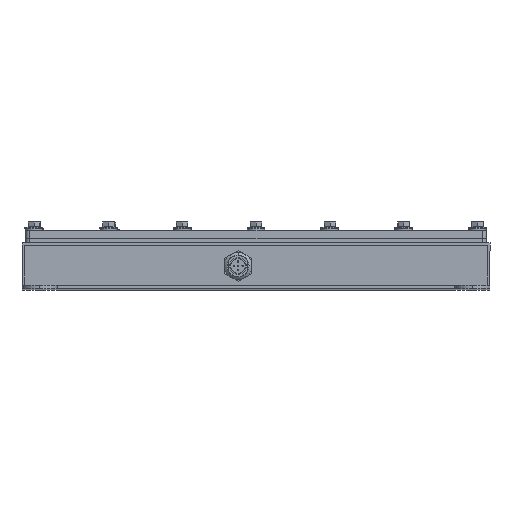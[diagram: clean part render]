
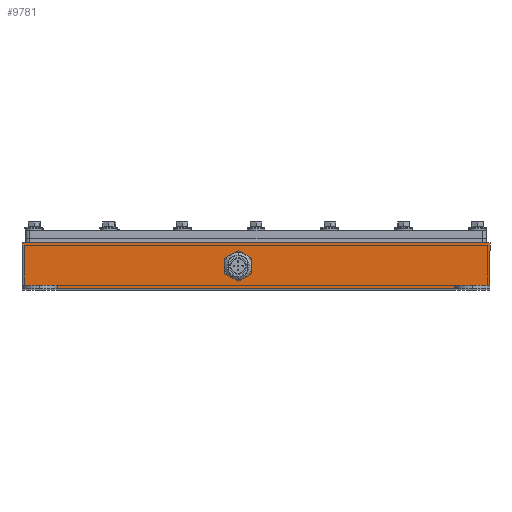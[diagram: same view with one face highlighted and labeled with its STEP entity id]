
A CAD part, top view. The second image highlights one B-rep face of the part: STEP entity #9781.
In plain terms, the highlighted planar face has unit normal (0, 0, 1).
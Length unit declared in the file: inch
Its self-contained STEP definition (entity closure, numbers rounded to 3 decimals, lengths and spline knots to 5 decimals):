
#12 = DIRECTION ( 'NONE',  ( 0., 1., 0. ) ) ;
#23 = CARTESIAN_POINT ( 'NONE',  ( 12.25, -1.3, 0. ) ) ;
#152 = DIRECTION ( 'NONE',  ( -1., 0., 0. ) ) ;
#160 = CARTESIAN_POINT ( 'NONE',  ( -12.85903, -1.195, 0. ) ) ;
#175 = DIRECTION ( 'NONE',  ( 1., 0., 0. ) ) ;
#224 = CARTESIAN_POINT ( 'NONE',  ( 0., -1.3, 0. ) ) ;
#245 = VERTEX_POINT ( 'NONE', #15195 ) ;
#310 = VERTEX_POINT ( 'NONE', #7253 ) ;
#334 = VERTEX_POINT ( 'NONE', #7469 ) ;
#503 = VERTEX_POINT ( 'NONE', #7496 ) ;
#2753 = VERTEX_POINT ( 'NONE', #7454 ) ;
#3410 = AXIS2_PLACEMENT_3D ( 'NONE', #13373, #13378, #13379 ) ;
#3559 = DIRECTION ( 'NONE',  ( 1., 0., 0. ) ) ;
#3583 = CARTESIAN_POINT ( 'NONE',  ( 1.78049, -0.92, 0. ) ) ;
#3687 = CARTESIAN_POINT ( 'NONE',  ( 13.25, -1.3, 0. ) ) ;
#3691 = DIRECTION ( 'NONE',  ( 0., 1., 0. ) ) ;
#3901 = CARTESIAN_POINT ( 'NONE',  ( 1.78049, -0.38, 0. ) ) ;
#3925 = DIRECTION ( 'NONE',  ( 1., 0., 0. ) ) ;
#4802 = ORIENTED_EDGE ( 'NONE', *, *, #7877, .F. ) ;
#4803 = ORIENTED_EDGE ( 'NONE', *, *, #8100, .F. ) ;
#4804 = ORIENTED_EDGE ( 'NONE', *, *, #7866, .F. ) ;
#4805 = ORIENTED_EDGE ( 'NONE', *, *, #7985, .T. ) ;
#4806 = ORIENTED_EDGE ( 'NONE', *, *, #7876, .F. ) ;
#4807 = ORIENTED_EDGE ( 'NONE', *, *, #8060, .T. ) ;
#4808 = ORIENTED_EDGE ( 'NONE', *, *, #8176, .F. ) ;
#4809 = ORIENTED_EDGE ( 'NONE', *, *, #8025, .T. ) ;
#4810 = ORIENTED_EDGE ( 'NONE', *, *, #8227, .T. ) ;
#4811 = ORIENTED_EDGE ( 'NONE', *, *, #8037, .F. ) ;
#4812 = ORIENTED_EDGE ( 'NONE', *, *, #8123, .T. ) ;
#4813 = ORIENTED_EDGE ( 'NONE', *, *, #7955, .F. ) ;
#4814 = ORIENTED_EDGE ( 'NONE', *, *, #7871, .F. ) ;
#4861 = DIRECTION ( 'NONE',  ( 0., 0., 1. ) ) ;
#4871 = DIRECTION ( 'NONE',  ( 1., 0., 0. ) ) ;
#4887 = CARTESIAN_POINT ( 'NONE',  ( 6.118, -0.65, 0. ) ) ;
#4890 = DIRECTION ( 'NONE',  ( 0., 0., 1. ) ) ;
#4892 = DIRECTION ( 'NONE',  ( 1., 0., 0. ) ) ;
#4919 = CARTESIAN_POINT ( 'NONE',  ( 6.118, -0.65, 0. ) ) ;
#4962 = DIRECTION ( 'NONE',  ( 0., 0., 1. ) ) ;
#4998 = CARTESIAN_POINT ( 'NONE',  ( 0., -1.3, 0. ) ) ;
#5002 = DIRECTION ( 'NONE',  ( 0., 1., 0. ) ) ;
#5023 = DIRECTION ( 'NONE',  ( 1., 0., 0. ) ) ;
#5036 = CARTESIAN_POINT ( 'NONE',  ( 6.118, -0.65, 0. ) ) ;
#5253 = CARTESIAN_POINT ( 'NONE',  ( -12.85903, -1.195, 0. ) ) ;
#5273 = DIRECTION ( 'NONE',  ( 1., 0., 0. ) ) ;
#5525 = CIRCLE ( 'NONE', #10845, 0.301 ) ;
#5532 = LINE ( 'NONE', #4998, #5535 ) ;
#5535 = VECTOR ( 'NONE', #5002, 39.37008 ) ;
#5538 = CIRCLE ( 'NONE', #11747, 0.301 ) ;
#5539 = CIRCLE ( 'NONE', #11897, 0.301 ) ;
#5829 = LINE ( 'NONE', #11597, #5838 ) ;
#5838 = VECTOR ( 'NONE', #11491, 39.37008 ) ;
#5876 = LINE ( 'NONE', #3901, #5881 ) ;
#5881 = VECTOR ( 'NONE', #3925, 39.37008 ) ;
#5938 = LINE ( 'NONE', #224, #5942 ) ;
#5942 = VECTOR ( 'NONE', #175, 39.37008 ) ;
#5953 = LINE ( 'NONE', #160, #5959 ) ;
#5959 = VECTOR ( 'NONE', #152, 39.37008 ) ;
#5992 = LINE ( 'NONE', #5253, #5993 ) ;
#5993 = VECTOR ( 'NONE', #5273, 39.37008 ) ;
#6043 = LINE ( 'NONE', #3583, #6050 ) ;
#6050 = VECTOR ( 'NONE', #3559, 39.37008 ) ;
#6289 = EDGE_LOOP ( 'NONE', ( #4807, #4808, #4809, #4810, #4811, #4812, #4813, #4814 ) ) ;
#7065 = EDGE_LOOP ( 'NONE', ( #4802, #4803, #4804, #4805, #4806 ) ) ;
#7253 = CARTESIAN_POINT ( 'NONE',  ( 6.25105, -0.38, 0. ) ) ;
#7454 = CARTESIAN_POINT ( 'NONE',  ( 12.25, -1.3, 0. ) ) ;
#7469 = CARTESIAN_POINT ( 'NONE',  ( 5.98495, -0.92, 0. ) ) ;
#7496 = CARTESIAN_POINT ( 'NONE',  ( 5.98495, -0.38, 0. ) ) ;
#7866 = EDGE_CURVE ( 'NONE', #503, #334, #5525, .T. ) ;
#7871 = EDGE_CURVE ( 'NONE', #10993, #11038, #5532, .T. ) ;
#7876 = EDGE_CURVE ( 'NONE', #245, #310, #5538, .T. ) ;
#7877 = EDGE_CURVE ( 'NONE', #11067, #245, #5539, .T. ) ;
#7955 = EDGE_CURVE ( 'NONE', #11038, #11254, #5829, .T. ) ;
#7985 = EDGE_CURVE ( 'NONE', #503, #310, #5876, .T. ) ;
#8025 = EDGE_CURVE ( 'NONE', #11209, #2753, #5938, .T. ) ;
#8037 = EDGE_CURVE ( 'NONE', #11178, #11231, #5953, .T. ) ;
#8060 = EDGE_CURVE ( 'NONE', #10993, #11095, #5992, .T. ) ;
#8100 = EDGE_CURVE ( 'NONE', #334, #11067, #6043, .T. ) ;
#8123 = EDGE_CURVE ( 'NONE', #11178, #11254, #8590, .T. ) ;
#8176 = EDGE_CURVE ( 'NONE', #11209, #11095, #8667, .T. ) ;
#8227 = EDGE_CURVE ( 'NONE', #2753, #11231, #8739, .T. ) ;
#8248 = CARTESIAN_POINT ( 'NONE',  ( 1., -1.3, 0. ) ) ;
#8590 = LINE ( 'NONE', #3687, #8594 ) ;
#8594 = VECTOR ( 'NONE', #3691, 39.37008 ) ;
#8667 = LINE ( 'NONE', #8248, #8669 ) ;
#8669 = VECTOR ( 'NONE', #13140, 39.37008 ) ;
#8739 = LINE ( 'NONE', #23, #8742 ) ;
#8742 = VECTOR ( 'NONE', #12, 39.37008 ) ;
#9243 = FACE_BOUND ( 'NONE', #7065, .T. ) ;
#9251 = FACE_OUTER_BOUND ( 'NONE', #6289, .T. ) ;
#9781 = ADVANCED_FACE ( 'NONE', ( #9243, #9251 ), #13376, .T. ) ;
#10845 = AXIS2_PLACEMENT_3D ( 'NONE', #4887, #4962, #4871 ) ;
#10993 = VERTEX_POINT ( 'NONE', #12739 ) ;
#11038 = VERTEX_POINT ( 'NONE', #12786 ) ;
#11067 = VERTEX_POINT ( 'NONE', #12807 ) ;
#11095 = VERTEX_POINT ( 'NONE', #12831 ) ;
#11178 = VERTEX_POINT ( 'NONE', #12875 ) ;
#11209 = VERTEX_POINT ( 'NONE', #12907 ) ;
#11231 = VERTEX_POINT ( 'NONE', #12925 ) ;
#11254 = VERTEX_POINT ( 'NONE', #12942 ) ;
#11491 = DIRECTION ( 'NONE',  ( 1., 0., 0. ) ) ;
#11597 = CARTESIAN_POINT ( 'NONE',  ( 0., 0., 0. ) ) ;
#11747 = AXIS2_PLACEMENT_3D ( 'NONE', #4919, #4890, #4892 ) ;
#11897 = AXIS2_PLACEMENT_3D ( 'NONE', #5036, #4861, #5023 ) ;
#12739 = CARTESIAN_POINT ( 'NONE',  ( 0., -1.195, 0. ) ) ;
#12786 = CARTESIAN_POINT ( 'NONE',  ( 0., 0., 0. ) ) ;
#12807 = CARTESIAN_POINT ( 'NONE',  ( 6.25105, -0.92, 0. ) ) ;
#12831 = CARTESIAN_POINT ( 'NONE',  ( 1., -1.195, 0. ) ) ;
#12875 = CARTESIAN_POINT ( 'NONE',  ( 13.25, -1.195, 0. ) ) ;
#12907 = CARTESIAN_POINT ( 'NONE',  ( 1., -1.3, 0. ) ) ;
#12925 = CARTESIAN_POINT ( 'NONE',  ( 12.25, -1.195, 0. ) ) ;
#12942 = CARTESIAN_POINT ( 'NONE',  ( 13.25, 0., 0. ) ) ;
#13140 = DIRECTION ( 'NONE',  ( 0., 1., 0. ) ) ;
#13373 = CARTESIAN_POINT ( 'NONE',  ( 0., -1.3, 0. ) ) ;
#13376 = PLANE ( 'NONE',  #3410 ) ;
#13378 = DIRECTION ( 'NONE',  ( 0., 0., 1. ) ) ;
#13379 = DIRECTION ( 'NONE',  ( 1., 0., 0. ) ) ;
#15195 = CARTESIAN_POINT ( 'NONE',  ( 6.419, -0.65, 0. ) ) ;
